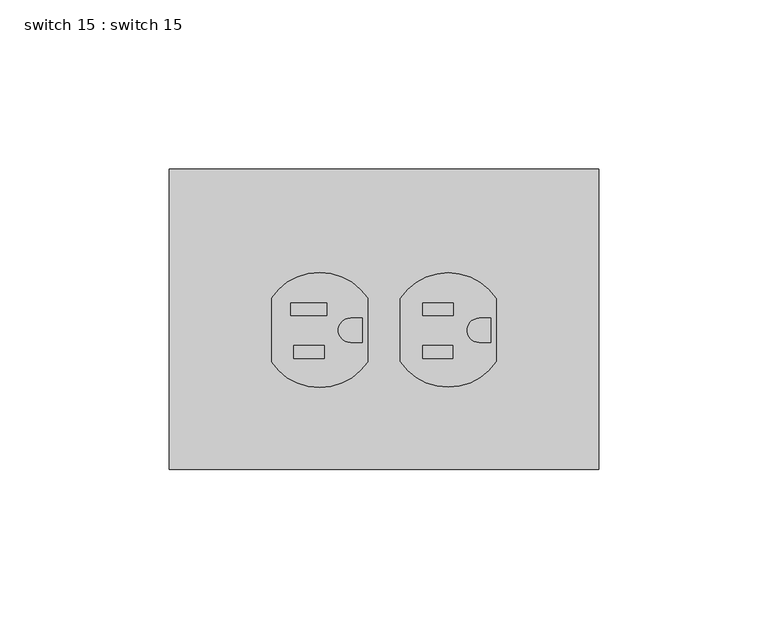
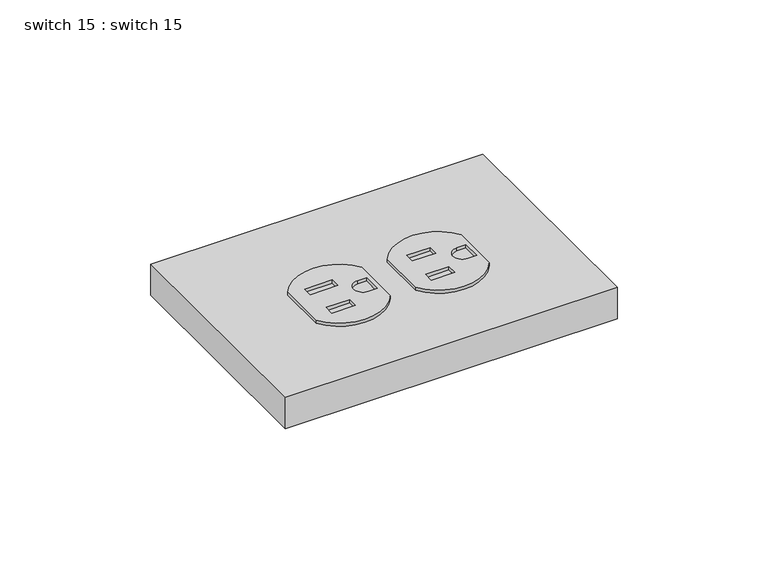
"""IFC4 building model written with IfcOpenShell, lengths in millimetres: proxy geometry, switch 15 : switch 15."""

from ifc_helpers import new_model, si_unit, point, frame, frame_2d, origin, origin_with_axes, place, context, project, spatial, polyline, circle_curve, trimmed, segment, composite_curve, outline, extrude, source, transform, mapped, element, save


def switch_15_switch_15_0b5d0301(model_context):
    return source(origin(), model_context, "Body", "SweptSolid", [
        extrude(outline(composite_curve([segment(trimmed(circle_curve(frame_2d((-19.0501895, 41.3688728)), 17.0868414), [point((-4.8504172, 31.8648412))], [point((-33.2499617, 31.8648412))], False, "CARTESIAN"), True, "CONTINUOUS"), segment(polyline([(-33.2499617, 31.8648412), (-33.2499617, 50.7113791)]), True, "CONTINUOUS"), segment(trimmed(circle_curve(frame_2d((-19.0501895, 41.2073476)), 17.0868414), [point((-33.2499617, 50.7113791))], [point((-4.8504172, 50.7113791))], False, "CARTESIAN"), True, "CONTINUOUS"), segment(polyline([(-4.8504172, 50.7113791), (-4.8504172, 31.8648412)]), True, "CONTINUOUS")], self_intersect=False), holes=[polyline([(-27.5628354, 45.6048062), (-16.9361454, 45.6048062), (-16.9361454, 49.2657094), (-27.5628354, 49.2657094), (-27.5628354, 45.6048062)]), polyline([(-26.6844113, 36.6337377), (-26.6844113, 32.8092385), (-17.6836473, 32.8092385), (-17.6836473, 36.6337377), (-26.6844113, 36.6337377)]), composite_curve([segment(polyline([(-6.4558696, 37.6208945), (-6.4558696, 44.7816545), (-9.9004902, 44.7816545)]), True, "CONTINUOUS"), segment(trimmed(circle_curve(frame_2d((-9.9004902, 41.2012745)), 3.58038), [point((-9.9004902, 44.7816545))], [point((-9.9004902, 37.6208945))], True, "CARTESIAN"), True, "CONTINUOUS"), segment(polyline([(-9.9004902, 37.6208945), (-6.4558696, 37.6208945)]), True, "CONTINUOUS")], self_intersect=False)]), frame((0.0, 0.0, 12.7), z_axis=(0.0, 0.0, 1.0), x_axis=(1.0, 0.0, 0.0)), (0.0, 0.0, 1.0), 1.2829052),
        extrude(outline(composite_curve([segment(trimmed(circle_curve(frame_2d((18.9798936, 41.3684729)), 17.002253), [point((33.1093699, 31.911491))], [point((4.8504172, 31.911491))], False, "CARTESIAN"), True, "CONTINUOUS"), segment(polyline([(4.8504172, 31.911491), (4.8504172, 50.6647293)]), True, "CONTINUOUS"), segment(trimmed(circle_curve(frame_2d((18.9798936, 41.2077474)), 17.002253), [point((4.8504172, 50.6647293))], [point((33.1093699, 50.6647293))], False, "CARTESIAN"), True, "CONTINUOUS"), segment(polyline([(33.1093699, 50.6647293), (33.1093699, 31.911491)]), True, "CONTINUOUS")], self_intersect=False), holes=[polyline([(11.4443665, 45.5834364), (20.4208395, 45.5834364), (20.4208395, 49.2262163), (11.4443665, 49.2262163), (11.4443665, 45.5834364)]), polyline([(11.383465, 36.6567792), (11.383465, 32.8512131), (20.3396707, 32.8512131), (20.3396707, 36.6567792), (11.383465, 36.6567792)]), composite_curve([segment(polyline([(31.5118653, 37.6390491), (31.5118653, 44.7643597), (28.0842974, 44.7643597)]), True, "CONTINUOUS"), segment(trimmed(circle_curve(frame_2d((28.0842974, 41.2017044)), 3.5626553), [point((28.0842974, 44.7643597))], [point((28.0842974, 37.6390491))], True, "CARTESIAN"), True, "CONTINUOUS"), segment(polyline([(28.0842974, 37.6390491), (31.5118653, 37.6390491)]), True, "CONTINUOUS")], self_intersect=False)]), frame((0.0, 0.0, 12.7), z_axis=(0.0, 0.0, 1.0), x_axis=(1.0, 0.0, 0.0)), (0.0, 0.0, 1.0), 1.2829052),
        extrude(outline(polyline([(63.5, 88.9), (63.5, 0.0), (-63.5, 0.0), (-63.5, 88.9), (63.5, 88.9)])), origin_with_axes(), (0.0, 0.0, 1.0), 12.7),
    ])


if __name__ == "__main__":
    model = new_model("IFC4")
    model_context = context("Model", 3, world=origin())
    ifc_project = project(units=[si_unit("LENGTHUNIT", "METRE", prefix="MILLI")], contexts=[model_context])
    site = spatial("IfcSite", under=ifc_project)
    building = spatial("IfcBuilding", under=site)
    placement = place(None, origin())
    switch_15_switch_15_shape = switch_15_switch_15_0b5d0301(model_context)
    element("IfcBuildingElementProxy", 1, Name="switch 15 : switch 15", ObjectType="switch 15 : switch 15", at=placement, inside=building, context=model_context, shape_type="MappedRepresentation", body=[
        mapped(switch_15_switch_15_shape, transform((0.0, 0.0, 0.0), x_axis=(1.0, 0.0, 0.0), y_axis=(0.0, 1.0, 0.0), z_axis=(0.0, 0.0, 1.0))),
    ])
    save(model, "model.ifc")
